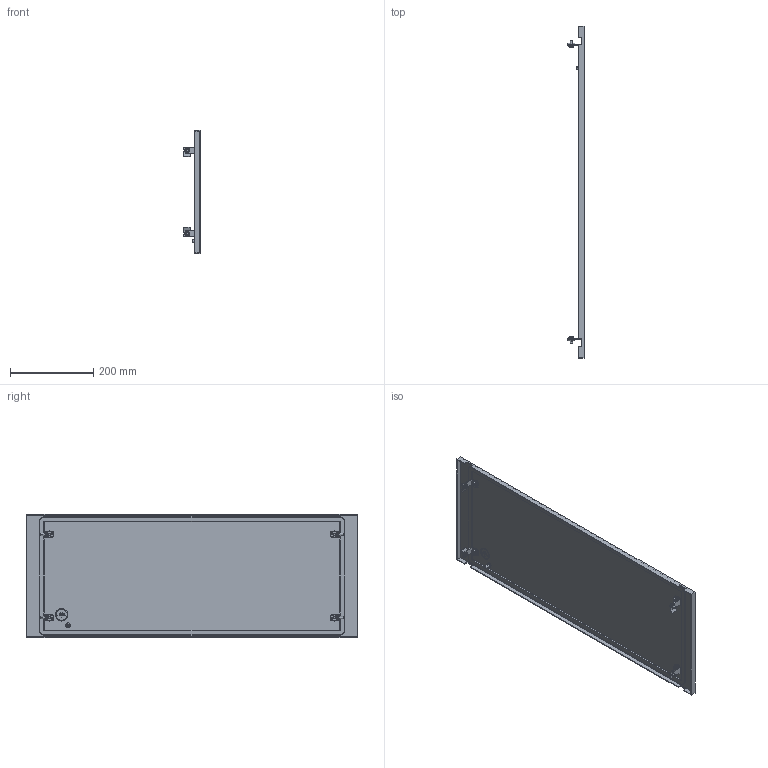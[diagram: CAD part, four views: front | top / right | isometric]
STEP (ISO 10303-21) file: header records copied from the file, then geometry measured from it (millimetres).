
FILE_DESCRIPTION (( 'STEP AP214' ), '1' );
FILE_NAME ('FO-00-PWSB-030-080 Ôàëüø-ïàíåëü âíåøíÿÿ ãëóõàÿ 300õ800 ìì.STEP', '2025-08-25T08:40:08', ( '' ), ( '' ), 'SwSTEP 2.0', 'SolidWorks 2023', '' );
FILE_SCHEMA (( 'AUTOMOTIVE_DESIGN' ));
Length unit declared in the file: millimetre
Products named in the file (1): FO-00-PWSB-030-080 Фальш-панель внешняя глухая 300х800 мм
Bounding box: 38.5 x 795 x 296 mm (x, y, z)
Volume: 596724.2 mm3; surface area: 543646.7 mm2
Topology: 1 solids, 10 shells, 846 faces, 2093 edges, 1287 vertices
Faces by surface type: plane 530, cylinder 202, cone 90, torus 24
Entity records: 25296 total; most frequent: CARTESIAN_POINT 4873, DIRECTION 4361, ORIENTED_EDGE 4182, EDGE_CURVE 2091, AXIS2_PLACEMENT_3D 1487, LINE 1387, VECTOR 1387, VERTEX_POINT 1287
